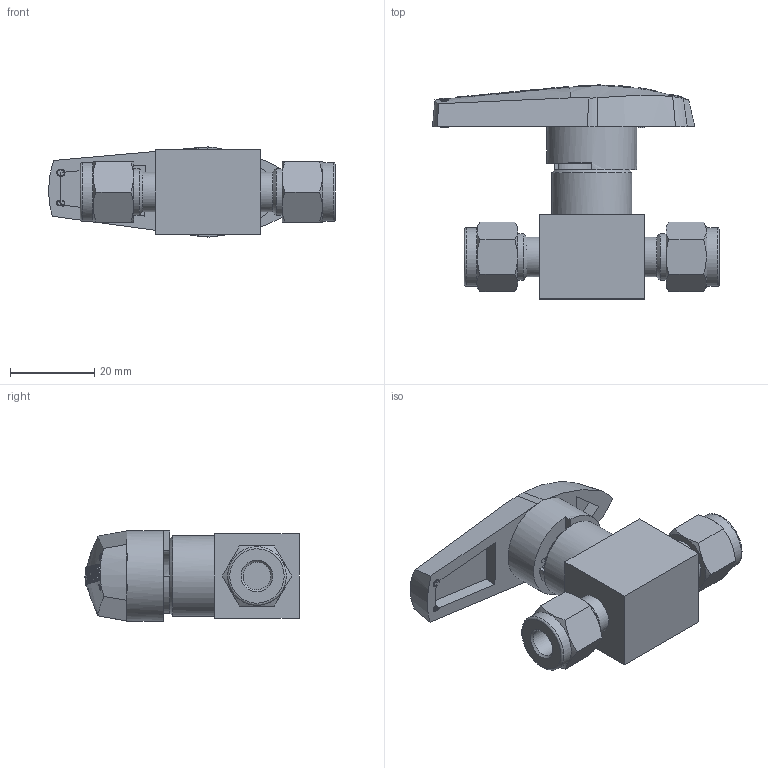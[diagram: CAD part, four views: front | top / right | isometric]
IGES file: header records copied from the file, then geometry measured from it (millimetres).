
Global section: file name: SBV120H2-S4-S316; native system: Autodesk Inventor 2016; preprocessor: unknown; author: 이승민,,11,0; organization: 20161215.101905; date: 20161216.191146; units: millimetre
Bounding box: 68.18 x 50.87 x 21.4 mm (x, y, z)
Volume: 24508.5 mm3; surface area: 10645.5 mm2
Topology: 2 solids, 2 shells, 442 faces, 1215 edges, 808 vertices
Faces by surface type: bspline 442
